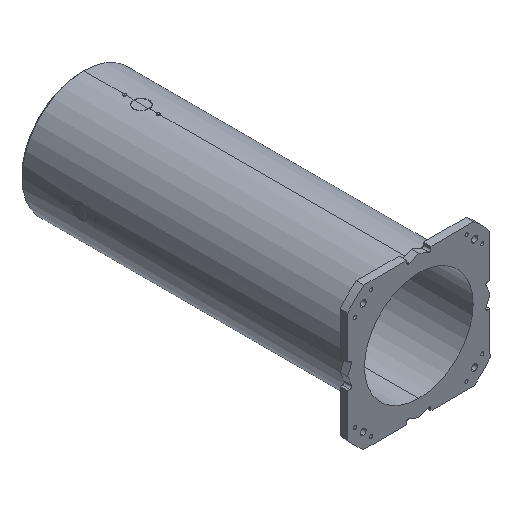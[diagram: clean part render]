
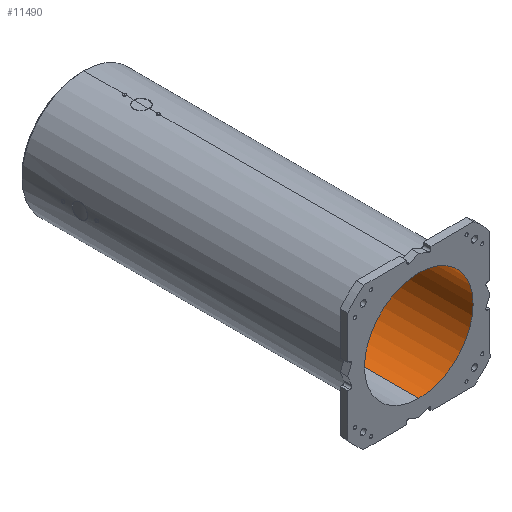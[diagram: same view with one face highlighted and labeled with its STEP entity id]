
A CAD part, isometric view. The second image highlights one B-rep face of the part: STEP entity #11490.
In plain terms, the highlighted cylindrical face has radius 145 mm (diameter 290 mm), a partial arc.
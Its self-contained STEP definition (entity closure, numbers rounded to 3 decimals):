
#229 = VERTEX_POINT ( 'NONE', #4943 ) ;
#275 = VERTEX_POINT ( 'NONE', #310 ) ;
#310 = CARTESIAN_POINT ( 'NONE',  ( 0., 882., 145. ) ) ;
#469 = AXIS2_PLACEMENT_3D ( 'NONE', #6063, #9966, #1009 ) ;
#690 = EDGE_CURVE ( 'NONE', #229, #9090, #9910, .T. ) ;
#750 = DIRECTION ( 'NONE',  ( 0., 1., 0. ) ) ;
#785 = DIRECTION ( 'NONE',  ( 0., 0., 1. ) ) ;
#1009 = DIRECTION ( 'NONE',  ( 0., 0., 1. ) ) ;
#1147 = EDGE_CURVE ( 'NONE', #1645, #275, #12461, .T. ) ;
#1587 = ORIENTED_EDGE ( 'NONE', *, *, #690, .F. ) ;
#1645 = VERTEX_POINT ( 'NONE', #8735 ) ;
#1970 = ORIENTED_EDGE ( 'NONE', *, *, #9588, .F. ) ;
#2151 = FACE_OUTER_BOUND ( 'NONE', #9118, .T. ) ;
#4199 = CYLINDRICAL_SURFACE ( 'NONE', #7809, 145. ) ;
#4267 = DIRECTION ( 'NONE',  ( 0., 0., 1. ) ) ;
#4642 = DIRECTION ( 'NONE',  ( 0., 1., 0. ) ) ;
#4943 = CARTESIAN_POINT ( 'NONE',  ( 0., 0., -145. ) ) ;
#6063 = CARTESIAN_POINT ( 'NONE',  ( 0., 0., 0. ) ) ;
#6201 = AXIS2_PLACEMENT_3D ( 'NONE', #12232, #4642, #785 ) ;
#6574 = CARTESIAN_POINT ( 'NONE',  ( 0., 0., 145. ) ) ;
#7203 = ORIENTED_EDGE ( 'NONE', *, *, #9396, .T. ) ;
#7809 = AXIS2_PLACEMENT_3D ( 'NONE', #11159, #8084, #4267 ) ;
#8030 = CIRCLE ( 'NONE', #469, 145. ) ;
#8084 = DIRECTION ( 'NONE',  ( 0., 1., 0. ) ) ;
#8430 = CIRCLE ( 'NONE', #6201, 145. ) ;
#8735 = CARTESIAN_POINT ( 'NONE',  ( 0., 0., 145. ) ) ;
#8937 = DIRECTION ( 'NONE',  ( 0., 1., 0. ) ) ;
#9090 = VERTEX_POINT ( 'NONE', #9639 ) ;
#9118 = EDGE_LOOP ( 'NONE', ( #1587, #1970, #9174, #7203 ) ) ;
#9174 = ORIENTED_EDGE ( 'NONE', *, *, #1147, .T. ) ;
#9196 = VECTOR ( 'NONE', #8937, 1000. ) ;
#9396 = EDGE_CURVE ( 'NONE', #275, #9090, #8430, .T. ) ;
#9588 = EDGE_CURVE ( 'NONE', #1645, #229, #8030, .T. ) ;
#9639 = CARTESIAN_POINT ( 'NONE',  ( 0., 882., -145. ) ) ;
#9910 = LINE ( 'NONE', #10827, #9196 ) ;
#9966 = DIRECTION ( 'NONE',  ( 0., 1., 0. ) ) ;
#10827 = CARTESIAN_POINT ( 'NONE',  ( 0., 0., -145. ) ) ;
#11159 = CARTESIAN_POINT ( 'NONE',  ( 0., 0., 0. ) ) ;
#11490 = ADVANCED_FACE ( 'NONE', ( #2151 ), #4199, .F. ) ;
#11877 = VECTOR ( 'NONE', #750, 1000. ) ;
#12232 = CARTESIAN_POINT ( 'NONE',  ( 0., 882., 0. ) ) ;
#12461 = LINE ( 'NONE', #6574, #11877 ) ;
